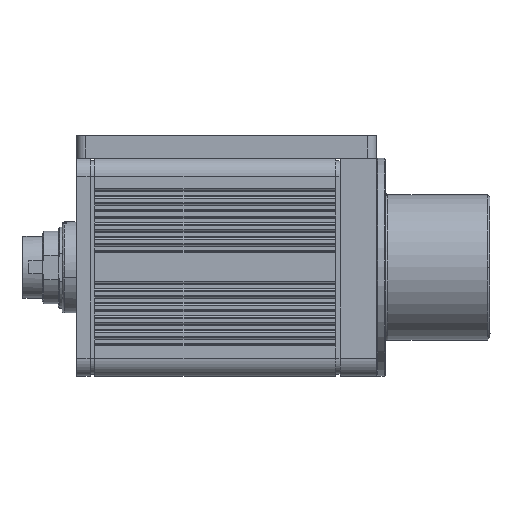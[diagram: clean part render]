
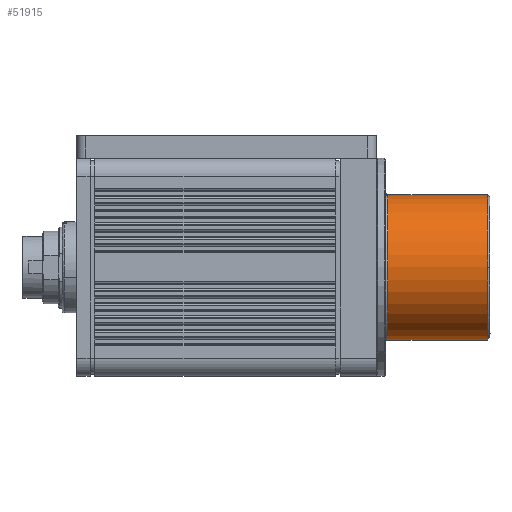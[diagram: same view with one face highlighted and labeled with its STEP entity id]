
A CAD part, left-side view. The second image highlights one B-rep face of the part: STEP entity #51915.
In plain terms, the highlighted cylindrical face has radius 16 mm (diameter 32 mm), a partial arc.
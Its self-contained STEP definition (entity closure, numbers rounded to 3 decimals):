
#2528 = VERTEX_POINT ( 'NONE', #20832 ) ;
#6083 = VERTEX_POINT ( 'NONE', #11635 ) ;
#8128 = DIRECTION ( 'NONE',  ( 0., 1., 0. ) ) ;
#8428 = EDGE_CURVE ( 'NONE', #39197, #2528, #38894, .T. ) ;
#8494 = VECTOR ( 'NONE', #20573, 1000. ) ;
#10668 = EDGE_LOOP ( 'NONE', ( #16681, #12827, #10874, #39835, #43939 ) ) ;
#10874 = ORIENTED_EDGE ( 'NONE', *, *, #22941, .T. ) ;
#11635 = CARTESIAN_POINT ( 'NONE',  ( 0., -38., -16. ) ) ;
#12827 = ORIENTED_EDGE ( 'NONE', *, *, #24474, .T. ) ;
#16203 = VERTEX_POINT ( 'NONE', #47598 ) ;
#16681 = ORIENTED_EDGE ( 'NONE', *, *, #8428, .F. ) ;
#18600 = VERTEX_POINT ( 'NONE', #27101 ) ;
#20573 = DIRECTION ( 'NONE',  ( 0., 1., 0. ) ) ;
#20832 = CARTESIAN_POINT ( 'NONE',  ( -16., -60., 0. ) ) ;
#22860 = CARTESIAN_POINT ( 'NONE',  ( 0., -38., 0. ) ) ;
#22868 = CARTESIAN_POINT ( 'NONE',  ( 0., -60., 0. ) ) ;
#22941 = EDGE_CURVE ( 'NONE', #18600, #6083, #23055, .T. ) ;
#23050 = CARTESIAN_POINT ( 'NONE',  ( 0., -35.5, 16. ) ) ;
#23055 = CIRCLE ( 'NONE', #52427, 16. ) ;
#24474 = EDGE_CURVE ( 'NONE', #39197, #18600, #54693, .T. ) ;
#25250 = EDGE_CURVE ( 'NONE', #16203, #6083, #41128, .T. ) ;
#25721 = DIRECTION ( 'NONE',  ( 0., 0., -1. ) ) ;
#27101 = CARTESIAN_POINT ( 'NONE',  ( 0., -38., 16. ) ) ;
#27120 = DIRECTION ( 'NONE',  ( 0., 0., -1. ) ) ;
#27126 = DIRECTION ( 'NONE',  ( 0., 0., -1. ) ) ;
#28816 = AXIS2_PLACEMENT_3D ( 'NONE', #31158, #31111, #31104 ) ;
#30751 = AXIS2_PLACEMENT_3D ( 'NONE', #22868, #52618, #27126 ) ;
#31104 = DIRECTION ( 'NONE',  ( 0., 0., -1. ) ) ;
#31111 = DIRECTION ( 'NONE',  ( 0., -1., 0. ) ) ;
#31158 = CARTESIAN_POINT ( 'NONE',  ( 0., -60., 0. ) ) ;
#33724 = CIRCLE ( 'NONE', #30751, 16. ) ;
#35889 = DIRECTION ( 'NONE',  ( 0., 1., 0. ) ) ;
#36054 = CARTESIAN_POINT ( 'NONE',  ( 0., -60., 16. ) ) ;
#38894 = CIRCLE ( 'NONE', #28816, 16. ) ;
#39197 = VERTEX_POINT ( 'NONE', #36054 ) ;
#39835 = ORIENTED_EDGE ( 'NONE', *, *, #25250, .F. ) ;
#41128 = LINE ( 'NONE', #46165, #8494 ) ;
#43939 = ORIENTED_EDGE ( 'NONE', *, *, #53801, .F. ) ;
#46165 = CARTESIAN_POINT ( 'NONE',  ( 0., -35.5, -16. ) ) ;
#46922 = CYLINDRICAL_SURFACE ( 'NONE', #47339, 16. ) ;
#47339 = AXIS2_PLACEMENT_3D ( 'NONE', #55009, #8128, #25721 ) ;
#47598 = CARTESIAN_POINT ( 'NONE',  ( 0., -60., -16. ) ) ;
#51915 = ADVANCED_FACE ( 'NONE', ( #52221 ), #46922, .T. ) ;
#52221 = FACE_OUTER_BOUND ( 'NONE', #10668, .T. ) ;
#52427 = AXIS2_PLACEMENT_3D ( 'NONE', #22860, #52602, #27120 ) ;
#52602 = DIRECTION ( 'NONE',  ( 0., -1., 0. ) ) ;
#52618 = DIRECTION ( 'NONE',  ( 0., -1., 0. ) ) ;
#53337 = VECTOR ( 'NONE', #35889, 1000. ) ;
#53801 = EDGE_CURVE ( 'NONE', #2528, #16203, #33724, .T. ) ;
#54693 = LINE ( 'NONE', #23050, #53337 ) ;
#55009 = CARTESIAN_POINT ( 'NONE',  ( 0., -35.5, 0. ) ) ;
